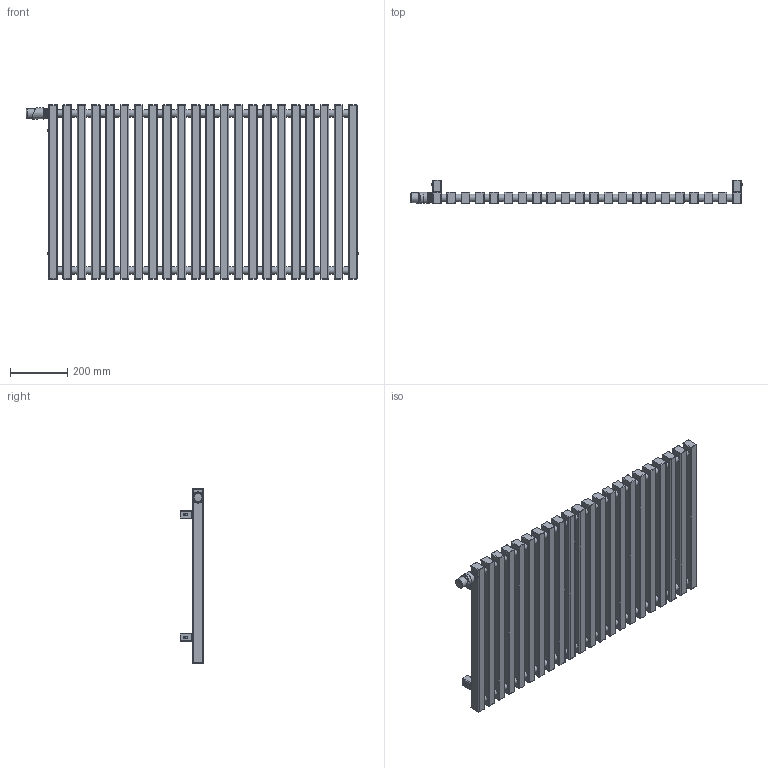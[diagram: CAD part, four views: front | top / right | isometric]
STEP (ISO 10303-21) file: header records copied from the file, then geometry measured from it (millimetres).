
FILE_DESCRIPTION((''),'2;1');
FILE_NAME('Z:\R\G\P\RGP029 - Grzejnik Triga ( ZET)\Work\Inventor\Triga v1.1\Marketing\AutoCad 3D\G-TR-XX-MK-XX-61-10-VL.stp','2012-07-26T13:24:01',('DawPi'),(''),'Autodesk Inventor 2012','Autodesk Inventor 2012','');
FILE_SCHEMA(('AUTOMOTIVE_DESIGN { 1 0 10303 214 1 1 1 1 }'));
Length unit declared in the file: millimetre
Products named in the file (4): G-TR-XX-MK-XX-61-10-VL; MMT42; A40300A
Assembly tree (6 placements, depth 2):
  G-TR-XX-MK-XX-61-10-VL
    G-TR-XX-MK-XX-61-10-VL
    MMT42  x4
    A40300A
Bounding box: 1162.26 x 82 x 610 mm (x, y, z)
Volume: 16625975.7 mm3; surface area: 1936738.5 mm2
Topology: 6 solids, 7 shells, 881 faces, 1950 edges, 1167 vertices
Faces by surface type: cylinder 385, plane 279, bspline 177, cone 25, torus 14, sphere 1
Full cylindrical faces by diameter (mm): 4 x1, 4.134 x4, 4.509 x4, 5 x1, 10 x5, 11.445 x1, 12 x4, 18.631 x2, 25 x42, 26.211 x1, 28 x1, 30 x1, 31 x1, 33.8 x1, 34 x2, 35 x3, 36 x4, 38 x3
Entity records: 33596 total; most frequent: CARTESIAN_POINT 17434, DIRECTION 3582, ORIENTED_EDGE 3060, EDGE_CURVE 1530, AXIS2_PLACEMENT_3D 1477, VERTEX_POINT 952, EDGE_LOOP 952, CIRCLE 896
